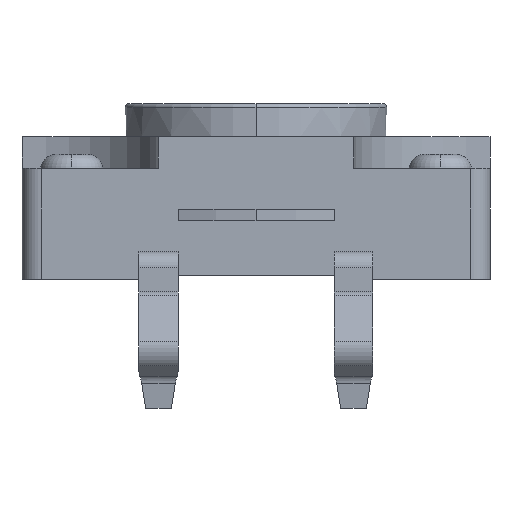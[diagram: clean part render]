
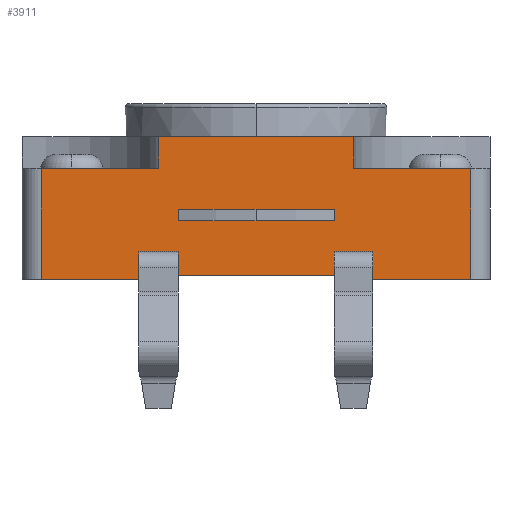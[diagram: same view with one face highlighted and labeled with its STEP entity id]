
A CAD part, left-side view. The second image highlights one B-rep face of the part: STEP entity #3911.
In plain terms, the highlighted planar face has unit normal (-1, 0, 0).
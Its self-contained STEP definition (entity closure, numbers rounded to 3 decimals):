
#111=DIRECTION('',(0.,0.,-1.));
#112=VECTOR('',#111,0.3);
#113=CARTESIAN_POINT('',(-75.489,35.77,0.1));
#114=LINE('',#113,#112);
#123=DIRECTION('',(0.,-1.,0.));
#124=VECTOR('',#123,3.);
#125=CARTESIAN_POINT('',(-75.489,35.27,1.15));
#126=LINE('',#125,#124);
#127=DIRECTION('',(0.,1.,0.));
#128=VECTOR('',#127,4.);
#129=CARTESIAN_POINT('',(-75.489,35.77,0.1));
#130=LINE('',#129,#128);
#131=DIRECTION('',(0.,-1.,0.));
#132=VECTOR('',#131,4.);
#133=CARTESIAN_POINT('',(-75.489,39.77,-0.2));
#134=LINE('',#133,#132);
#143=DIRECTION('',(0.,0.,1.));
#144=VECTOR('',#143,1.8);
#145=CARTESIAN_POINT('',(-75.489,32.27,-1.7));
#146=LINE('',#145,#144);
#147=DIRECTION('',(0.,0.,1.));
#148=VECTOR('',#147,1.05);
#149=CARTESIAN_POINT('',(-75.489,32.27,0.1));
#150=LINE('',#149,#148);
#255=DIRECTION('',(0.,0.,1.));
#256=VECTOR('',#255,0.3);
#257=CARTESIAN_POINT('',(-75.489,39.77,-0.2));
#258=LINE('',#257,#256);
#259=DIRECTION('',(0.,0.,-1.));
#260=VECTOR('',#259,1.05);
#261=CARTESIAN_POINT('',(-75.489,43.27,1.15));
#262=LINE('',#261,#260);
#263=DIRECTION('',(0.,0.,-1.));
#264=VECTOR('',#263,1.8);
#265=CARTESIAN_POINT('',(-75.489,43.27,0.1));
#266=LINE('',#265,#264);
#271=DIRECTION('',(0.,-1.,0.));
#272=VECTOR('',#271,3.);
#273=CARTESIAN_POINT('',(-75.489,43.27,-1.7));
#274=LINE('',#273,#272);
#288=DIRECTION('',(0.,0.,1.));
#289=VECTOR('',#288,0.1);
#290=CARTESIAN_POINT('',(-75.489,40.27,-1.7));
#291=LINE('',#290,#289);
#300=DIRECTION('',(0.,-1.,0.));
#301=VECTOR('',#300,5.);
#302=CARTESIAN_POINT('',(-75.489,40.27,-1.6));
#303=LINE('',#302,#301);
#365=DIRECTION('',(0.,0.,-1.));
#366=VECTOR('',#365,0.1);
#367=CARTESIAN_POINT('',(-75.489,35.27,-1.6));
#368=LINE('',#367,#366);
#373=DIRECTION('',(0.,-1.,0.));
#374=VECTOR('',#373,3.);
#375=CARTESIAN_POINT('',(-75.489,35.27,-1.7));
#376=LINE('',#375,#374);
#448=DIRECTION('',(0.,1.,0.));
#449=VECTOR('',#448,3.);
#450=CARTESIAN_POINT('',(-75.489,40.27,1.15));
#451=LINE('',#450,#449);
#467=DIRECTION('',(0.,0.,-1.));
#468=VECTOR('',#467,0.8);
#469=CARTESIAN_POINT('',(-75.489,40.27,1.95));
#470=LINE('',#469,#468);
#475=DIRECTION('',(0.,1.,0.));
#476=VECTOR('',#475,5.);
#477=CARTESIAN_POINT('',(-75.489,35.27,1.95));
#478=LINE('',#477,#476);
#856=DIRECTION('',(0.,0.,1.));
#857=VECTOR('',#856,0.8);
#858=CARTESIAN_POINT('',(-75.489,35.27,1.15));
#859=LINE('',#858,#857);
#1441=DIRECTION('',(0.,-1.,0.));
#1442=VECTOR('',#1441,1.);
#1443=CARTESIAN_POINT('',(-75.489,35.77,
-1.));
#1444=LINE('',#1443,#1442);
#1465=DIRECTION('',(0.,-1.,0.));
#1466=VECTOR('',#1465,1.);
#1467=CARTESIAN_POINT('',(-75.489,35.77,-1.3));
#1468=LINE('',#1467,#1466);
#1481=DIRECTION('',(0.,0.,-1.));
#1482=VECTOR('',#1481,0.3);
#1483=CARTESIAN_POINT('',(-75.489,34.77,
-1.));
#1484=LINE('',#1483,#1482);
#2121=DIRECTION('',(0.,0.,1.));
#2122=VECTOR('',#2121,0.3);
#2123=CARTESIAN_POINT('',(-75.489,35.77,-1.3));
#2124=LINE('',#2123,#2122);
#2149=DIRECTION('',(0.,1.,0.));
#2150=VECTOR('',#2149,1.);
#2151=CARTESIAN_POINT('',(-75.489,39.77,-1.3));
#2152=LINE('',#2151,#2150);
#2177=DIRECTION('',(0.,1.,0.));
#2178=VECTOR('',#2177,1.);
#2179=CARTESIAN_POINT('',(-75.489,39.77,
-1.));
#2180=LINE('',#2179,#2178);
#2193=DIRECTION('',(0.,0.,-1.));
#2194=VECTOR('',#2193,0.3);
#2195=CARTESIAN_POINT('',(-75.489,40.77,
-1.));
#2196=LINE('',#2195,#2194);
#2833=DIRECTION('',(0.,0.,-1.));
#2834=VECTOR('',#2833,0.3);
#2835=CARTESIAN_POINT('',(-75.489,39.77,
-1.));
#2836=LINE('',#2835,#2834);
#3223=CARTESIAN_POINT('',(-75.489,35.27,1.15));
#3224=VERTEX_POINT('',#3223);
#3225=CARTESIAN_POINT('',(-75.489,32.27,1.15));
#3226=VERTEX_POINT('',#3225);
#3227=CARTESIAN_POINT('',(-75.489,40.27,1.15));
#3228=CARTESIAN_POINT('',(-75.489,43.27,1.15));
#3229=VERTEX_POINT('',#3227);
#3230=VERTEX_POINT('',#3228);
#3251=CARTESIAN_POINT('',(-75.489,35.27,1.95));
#3252=CARTESIAN_POINT('',(-75.489,40.27,1.95));
#3253=VERTEX_POINT('',#3251);
#3254=VERTEX_POINT('',#3252);
#3311=CARTESIAN_POINT('',(-75.489,39.77,-0.2));
#3312=CARTESIAN_POINT('',(-75.489,35.77,-0.2));
#3313=VERTEX_POINT('',#3311);
#3314=VERTEX_POINT('',#3312);
#3315=CARTESIAN_POINT('',(-75.489,40.27,-1.6));
#3316=CARTESIAN_POINT('',(-75.489,35.27,-1.6));
#3317=VERTEX_POINT('',#3315);
#3318=VERTEX_POINT('',#3316);
#3319=CARTESIAN_POINT('',(-75.489,40.27,-1.7));
#3320=VERTEX_POINT('',#3319);
#3321=CARTESIAN_POINT('',(-75.489,43.27,-1.7));
#3322=VERTEX_POINT('',#3321);
#3335=CARTESIAN_POINT('',(-75.489,35.27,-1.7));
#3336=VERTEX_POINT('',#3335);
#3343=CARTESIAN_POINT('',(-75.489,32.27,-1.7));
#3344=VERTEX_POINT('',#3343);
#3503=CARTESIAN_POINT('',(-75.489,39.77,-1.3));
#3504=CARTESIAN_POINT('',(-75.489,40.77,-1.3));
#3505=VERTEX_POINT('',#3503);
#3506=VERTEX_POINT('',#3504);
#3509=CARTESIAN_POINT('',(-75.489,40.77,
-1.));
#3510=VERTEX_POINT('',#3509);
#3513=CARTESIAN_POINT('',(-75.489,39.77,
-1.));
#3514=VERTEX_POINT('',#3513);
#3519=CARTESIAN_POINT('',(-75.489,35.77,
-1.));
#3520=CARTESIAN_POINT('',(-75.489,34.77,
-1.));
#3521=VERTEX_POINT('',#3519);
#3522=VERTEX_POINT('',#3520);
#3527=CARTESIAN_POINT('',(-75.489,35.77,-1.3));
#3528=CARTESIAN_POINT('',(-75.489,34.77,-1.3));
#3529=VERTEX_POINT('',#3527);
#3530=VERTEX_POINT('',#3528);
#3549=CARTESIAN_POINT('',(-75.489,39.77,0.1));
#3550=VERTEX_POINT('',#3549);
#3561=CARTESIAN_POINT('',(-75.489,35.77,0.1));
#3562=VERTEX_POINT('',#3561);
#3581=CARTESIAN_POINT('',(-75.489,43.27,0.1));
#3582=VERTEX_POINT('',#3581);
#3591=CARTESIAN_POINT('',(-75.489,32.27,0.1));
#3592=VERTEX_POINT('',#3591);
#3849=CARTESIAN_POINT('',(-75.489,37.77,1.025));
#3850=DIRECTION('',(1.,0.,0.));
#3851=DIRECTION('',(0.,-1.,0.));
#3852=AXIS2_PLACEMENT_3D('',#3849,#3850,#3851);
#3853=PLANE('',#3852);
#3855=ORIENTED_EDGE('',*,*,#3854,.F.);
#3857=ORIENTED_EDGE('',*,*,#3856,.F.);
#3859=ORIENTED_EDGE('',*,*,#3858,.F.);
#3861=ORIENTED_EDGE('',*,*,#3860,.F.);
#3863=ORIENTED_EDGE('',*,*,#3862,.F.);
#3865=ORIENTED_EDGE('',*,*,#3864,.F.);
#3867=ORIENTED_EDGE('',*,*,#3866,.F.);
#3869=ORIENTED_EDGE('',*,*,#3868,.F.);
#3871=ORIENTED_EDGE('',*,*,#3870,.F.);
#3873=ORIENTED_EDGE('',*,*,#3872,.F.);
#3875=ORIENTED_EDGE('',*,*,#3874,.F.);
#3877=ORIENTED_EDGE('',*,*,#3876,.F.);
#3879=ORIENTED_EDGE('',*,*,#3878,.F.);
#3881=ORIENTED_EDGE('',*,*,#3880,.T.);
#3882=EDGE_LOOP('',(#3855,#3857,#3859,#3861,#3863,#3865,#3867,#3869,#3871,#3873,
#3875,#3877,#3879,#3881));
#3883=FACE_OUTER_BOUND('',#3882,.F.);
#3885=ORIENTED_EDGE('',*,*,#3884,.F.);
#3887=ORIENTED_EDGE('',*,*,#3886,.F.);
#3889=ORIENTED_EDGE('',*,*,#3888,.T.);
#3891=ORIENTED_EDGE('',*,*,#3890,.F.);
#3892=EDGE_LOOP('',(#3885,#3887,#3889,#3891));
#3893=FACE_BOUND('',#3892,.F.);
#3895=ORIENTED_EDGE('',*,*,#3894,.F.);
#3897=ORIENTED_EDGE('',*,*,#3896,.F.);
#3899=ORIENTED_EDGE('',*,*,#3898,.T.);
#3901=ORIENTED_EDGE('',*,*,#3900,.T.);
#3902=EDGE_LOOP('',(#3895,#3897,#3899,#3901));
#3903=FACE_BOUND('',#3902,.F.);
#3904=ORIENTED_EDGE('',*,*,#3734,.T.);
#3906=ORIENTED_EDGE('',*,*,#3905,.F.);
#3907=ORIENTED_EDGE('',*,*,#3788,.T.);
#3908=ORIENTED_EDGE('',*,*,#3842,.F.);
#3909=EDGE_LOOP('',(#3904,#3906,#3907,#3908));
#3910=FACE_BOUND('',#3909,.F.);
#3734=EDGE_CURVE('',#3562,#3550,#130,.T.);
#3788=EDGE_CURVE('',#3313,#3314,#134,.T.);
#3842=EDGE_CURVE('',#3562,#3314,#114,.T.);
#3854=EDGE_CURVE('',#3592,#3226,#150,.T.);
#3856=EDGE_CURVE('',#3344,#3592,#146,.T.);
#3858=EDGE_CURVE('',#3336,#3344,#376,.T.);
#3860=EDGE_CURVE('',#3318,#3336,#368,.T.);
#3862=EDGE_CURVE('',#3317,#3318,#303,.T.);
#3864=EDGE_CURVE('',#3320,#3317,#291,.T.);
#3866=EDGE_CURVE('',#3322,#3320,#274,.T.);
#3868=EDGE_CURVE('',#3582,#3322,#266,.T.);
#3870=EDGE_CURVE('',#3230,#3582,#262,.T.);
#3872=EDGE_CURVE('',#3229,#3230,#451,.T.);
#3874=EDGE_CURVE('',#3254,#3229,#470,.T.);
#3876=EDGE_CURVE('',#3253,#3254,#478,.T.);
#3878=EDGE_CURVE('',#3224,#3253,#859,.T.);
#3880=EDGE_CURVE('',#3224,#3226,#126,.T.);
#3884=EDGE_CURVE('',#3521,#3522,#1444,.T.);
#3886=EDGE_CURVE('',#3529,#3521,#2124,.T.);
#3888=EDGE_CURVE('',#3529,#3530,#1468,.T.);
#3890=EDGE_CURVE('',#3522,#3530,#1484,.T.);
#3894=EDGE_CURVE('',#3505,#3506,#2152,.T.);
#3896=EDGE_CURVE('',#3514,#3505,#2836,.T.);
#3898=EDGE_CURVE('',#3514,#3510,#2180,.T.);
#3900=EDGE_CURVE('',#3510,#3506,#2196,.T.);
#3905=EDGE_CURVE('',#3313,#3550,#258,.T.);
#3911=ADVANCED_FACE('',(#3883,#3893,#3903,#3910),#3853,.F.);
